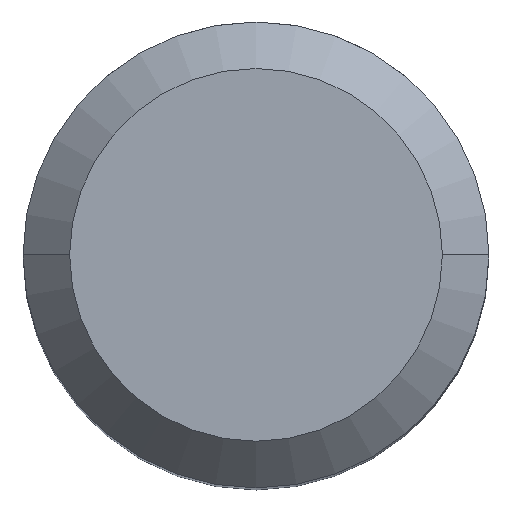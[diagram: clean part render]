
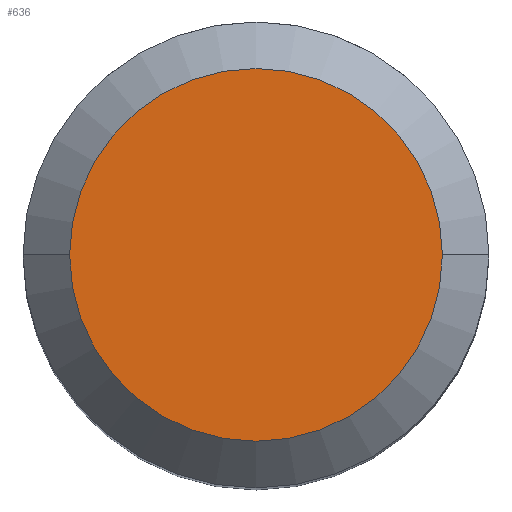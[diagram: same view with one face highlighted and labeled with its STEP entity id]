
A CAD part, top view. The second image highlights one B-rep face of the part: STEP entity #636.
In plain terms, the highlighted planar face has unit normal (0, 0, 1).
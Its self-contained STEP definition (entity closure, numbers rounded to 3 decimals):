
#45 = PLANE ( 'NONE',  #172 ) ;
#59 = EDGE_CURVE ( 'NONE', #457, #144, #76, .T. ) ;
#76 = CIRCLE ( 'NONE', #619, 7.2 ) ;
#80 = DIRECTION ( 'NONE',  ( -1., 0., 0. ) ) ;
#123 = CIRCLE ( 'NONE', #185, 7.2 ) ;
#144 = VERTEX_POINT ( 'NONE', #434 ) ;
#172 = AXIS2_PLACEMENT_3D ( 'NONE', #316, #475, #506 ) ;
#185 = AXIS2_PLACEMENT_3D ( 'NONE', #537, #643, #80 ) ;
#197 = EDGE_LOOP ( 'NONE', ( #343, #340 ) ) ;
#218 = DIRECTION ( 'NONE',  ( 0., 0., -1. ) ) ;
#270 = DIRECTION ( 'NONE',  ( -1., 0., 0. ) ) ;
#316 = CARTESIAN_POINT ( 'NONE',  ( 0., 7.2, 0. ) ) ;
#319 = FACE_OUTER_BOUND ( 'NONE', #197, .T. ) ;
#340 = ORIENTED_EDGE ( 'NONE', *, *, #59, .F. ) ;
#343 = ORIENTED_EDGE ( 'NONE', *, *, #437, .F. ) ;
#434 = CARTESIAN_POINT ( 'NONE',  ( -7.2, 0., 0. ) ) ;
#437 = EDGE_CURVE ( 'NONE', #144, #457, #123, .T. ) ;
#457 = VERTEX_POINT ( 'NONE', #543 ) ;
#475 = DIRECTION ( 'NONE',  ( 0., 0., 1. ) ) ;
#506 = DIRECTION ( 'NONE',  ( 1., 0., 0. ) ) ;
#524 = CARTESIAN_POINT ( 'NONE',  ( 0., 0., 0. ) ) ;
#537 = CARTESIAN_POINT ( 'NONE',  ( 0., 0., 0. ) ) ;
#543 = CARTESIAN_POINT ( 'NONE',  ( 7.2, 0., 0. ) ) ;
#619 = AXIS2_PLACEMENT_3D ( 'NONE', #524, #218, #270 ) ;
#636 = ADVANCED_FACE ( 'NONE', ( #319 ), #45, .T. ) ;
#643 = DIRECTION ( 'NONE',  ( 0., 0., -1. ) ) ;
